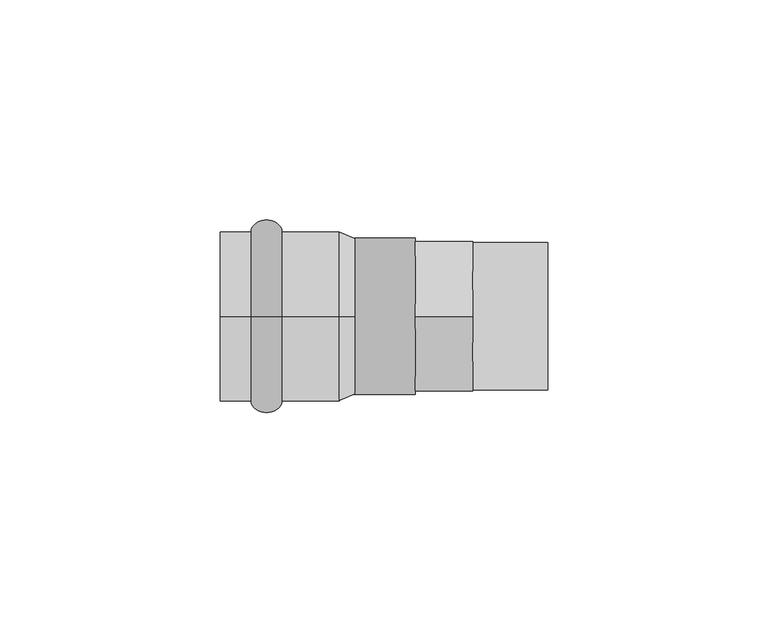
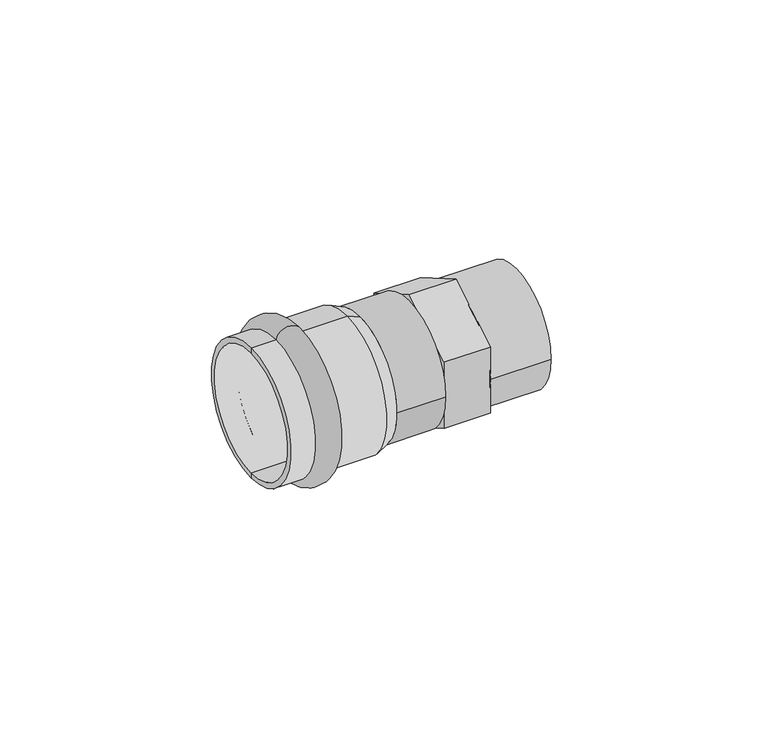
"""IFC4 building model written with IfcOpenShell, lengths in millimetres: pipe fitting geometry."""

from ifc_helpers import new_model, si_unit, point, frame, origin, origin_2d, place, context, project, spatial, polyline, circle_curve, ellipse_curve, trimmed, segment, composite_curve, outline, extrude, source, transform, mapped, element, save
from ifc_brep_helpers import plane_surface, cylinder_surface, revolved_surface, advanced_brep


def pipe_fitting_e93fd339(model_context):
    return source(origin(), model_context, "Body", "SolidModel", [
        advanced_brep(
        [(-20.0, 0.0, 19.25), (-20.0, 0.0, -19.25), (-13.0, 0.0, -19.25), (-13.0, 0.0, 19.25)],
        [
            (0, 1, circle_curve(frame((-20.0, 0.0, 0.0), z_axis=(-1.0, 0.0, 0.0), x_axis=(0.0, 0.0, -1.0)), 19.25)),
            (1, 2),
            (2, 3, circle_curve(frame((-13.0, 0.0, 0.0), z_axis=(1.0, 0.0, 0.0), x_axis=(0.0, 0.0, -1.0)), 19.25)),
            (3, 0),
            (1, 0, circle_curve(frame((-20.0, 0.0, 0.0), z_axis=(-1.0, 0.0, 0.0), x_axis=(0.0, 0.0, -1.0)), 19.25)),
            (3, 2, circle_curve(frame((-13.0, 0.0, 0.0), z_axis=(1.0, 0.0, 0.0), x_axis=(0.0, 0.0, -1.0)), 19.25)),
            (2, 1, ellipse_curve(frame((-16.5, 0.0, -19.25), z_axis=(0.0, 1.0, 0.0), x_axis=(-1.0, 0.0, 0.0)), 3.5, 2.75)),
            (0, 3, ellipse_curve(frame((-16.5, 0.0, 19.25), z_axis=(0.0, 1.0, 0.0), x_axis=(-1.0, 0.0, 0.0)), 3.5, 2.75)),
        ],
        [
            revolved_surface(polyline([(-13.0, 0.0, -19.25), (-20.0, 0.0, -19.25)]), (3.0, 0.0, 0.0), (1.0, 0.0, 0.0)),
            revolved_surface(trimmed(ellipse_curve(frame((-16.5, 0.0, -19.25), z_axis=(0.0, -1.0, 0.0), x_axis=(-1.0, 0.0, 0.0)), 3.5, 2.75), [point((-20.0, 0.0, -19.25))], [point((-13.0, 0.0, -19.25))], True, "CARTESIAN"), (3.0, 0.0, 0.0), (1.0, 0.0, 0.0)),
        ],
        [
            (0, [[1, 2, 3, 4]]),
            (0, [[5, -4, 6, -2]]),
            (1, [[-3, 7, -1, 8]]),
            (1, [[-6, -8, -5, -7]]),
        ],
    ),
        advanced_brep(
        [(3.5337785, 0.0, 17.75), (3.5337785, 0.0, -17.75), (0.0, 0.0, -19.25), (0.0, 0.0, 19.25), (-27.0, 0.0, 17.75), (-27.0, 0.0, -17.75), (-27.0, 0.0, 19.25), (-27.0, 0.0, -19.25)],
        [
            (0, 1, circle_curve(frame((3.5337785, 0.0, 0.0), z_axis=(-1.0, 0.0, 0.0), x_axis=(0.0, 0.0, -1.0)), 17.75)),
            (1, 2),
            (2, 3, circle_curve(frame((0.0, 0.0, 0.0), z_axis=(1.0, 0.0, 0.0), x_axis=(0.0, 0.0, -1.0)), 19.25)),
            (3, 0),
            (1, 0, circle_curve(frame((3.5337785, 0.0, 0.0), z_axis=(-1.0, 0.0, 0.0), x_axis=(0.0, 0.0, -1.0)), 17.75)),
            (3, 2, circle_curve(frame((0.0, 0.0, 0.0), z_axis=(1.0, 0.0, 0.0), x_axis=(0.0, 0.0, -1.0)), 19.25)),
            (4, 5, circle_curve(frame((-27.0, 0.0, 0.0), z_axis=(-1.0, 0.0, 0.0), x_axis=(0.0, 0.0, -1.0)), 17.75)),
            (5, 1),
            (0, 4),
            (5, 4, circle_curve(frame((-27.0, 0.0, 0.0), z_axis=(-1.0, 0.0, 0.0), x_axis=(0.0, 0.0, -1.0)), 17.75)),
            (6, 7, circle_curve(frame((-27.0, 0.0, 0.0), z_axis=(-1.0, 0.0, 0.0), x_axis=(0.0, 0.0, -1.0)), 19.25)),
            (7, 5),
            (4, 6),
            (7, 6, circle_curve(frame((-27.0, 0.0, 0.0), z_axis=(-1.0, 0.0, 0.0), x_axis=(0.0, 0.0, -1.0)), 19.25)),
            (2, 7),
            (6, 3),
        ],
        [
            revolved_surface(polyline([(0.0, 0.0, -19.25), (3.5337785, 0.0, -17.75)]), (3.0, 0.0, 0.0), (1.0, 0.0, 0.0)),
            revolved_surface(polyline([(3.5337785, 0.0, -17.75), (-27.0, 0.0, -17.75)]), (3.0, 0.0, 0.0), (1.0, 0.0, 0.0)),
            plane_surface(frame((-27.0, 0.0, 0.0), z_axis=(-1.0, 0.0, 0.0), x_axis=(0.0, 0.0, -1.0))),
            cylinder_surface(frame((3.0, 0.0, 0.0), z_axis=(1.0, 0.0, 0.0), x_axis=(0.0, 0.0, -1.0)), 19.25),
        ],
        [
            (0, [[1, 2, 3, 4]]),
            (0, [[5, -4, 6, -2]]),
            (1, [[7, 8, -1, 9]]),
            (1, [[10, -9, -5, -8]]),
            (2, [[11, 12, -7, 13]]),
            (2, [[14, -13, -10, -12]]),
            (3, [[-3, 15, -11, 16]]),
            (3, [[-6, -16, -14, -15]]),
        ],
    ),
        extrude(outline(composite_curve([segment(trimmed(circle_curve(origin_2d(), 16.75), [point((-16.75, 0.0))], [point((16.75, 0.0))], False, "CARTESIAN"), True, "CONTINUOUS"), segment(trimmed(circle_curve(origin_2d(), 16.75), [point((16.75, 0.0))], [point((-16.75, 0.0))], False, "CARTESIAN"), True, "CONTINUOUS")], self_intersect=False)), frame((30.3337785, 0.0, 0.0), z_axis=(1.0, 0.0, 0.0), x_axis=(0.0, 1.0, 0.0)), (0.0, 0.0, 1.0), 17.0),
        extrude(outline(composite_curve([segment(trimmed(circle_curve(origin_2d(), 17.75), [point((-17.75, 0.0))], [point((17.75, 0.0))], False, "CARTESIAN"), True, "CONTINUOUS"), segment(trimmed(circle_curve(origin_2d(), 17.75), [point((17.75, 0.0))], [point((-17.75, 0.0))], False, "CARTESIAN"), True, "CONTINUOUS")], self_intersect=False)), frame((3.5337785, 0.0, 0.0), z_axis=(1.0, 0.0, 0.0), x_axis=(0.0, 1.0, 0.0)), (0.0, 0.0, 1.0), 13.7),
        extrude(outline(polyline([(-16.95, 9.7860871), (0.0, 19.5721741), (16.95, 9.7860871), (16.95, -9.7860871), (0.0, -19.5721741), (-16.95, -9.7860871), (-16.95, 9.7860871)]), holes=[polyline([(0.0, -14.7224319), (12.75, -7.3612159), (12.75, 7.3612159), (0.0, 14.7224319), (-12.75, 7.3612159), (-12.75, -7.3612159), (0.0, -14.7224319)])]), frame((17.2337785, 0.0, 0.0), z_axis=(1.0, 0.0, 0.0), x_axis=(0.0, 1.0, 0.0)), (0.0, 0.0, 1.0), 13.1),
    ])


if __name__ == "__main__":
    model = new_model("IFC4")
    model_context = context("Model", 3, world=origin())
    ifc_project = project(units=[si_unit("LENGTHUNIT", "METRE", prefix="MILLI")], contexts=[model_context])
    site = spatial("IfcSite", under=ifc_project)
    building = spatial("IfcBuilding", under=site)
    placement = place(None, origin())
    pipe_fitting_shape = pipe_fitting_e93fd339(model_context)
    element("IfcPipeFitting", 1, ObjectType="РЕХАУ_Пресс Муфта НР : 35 x R 1\"", at=placement, inside=building, context=model_context, shape_type="MappedRepresentation", body=[
        mapped(pipe_fitting_shape, transform((0.0, 0.0, 0.0), x_axis=(1.0, 0.0, 0.0), y_axis=(0.0, 1.0, 0.0), z_axis=(0.0, 0.0, 1.0))),
    ])
    save(model, "model.ifc")
